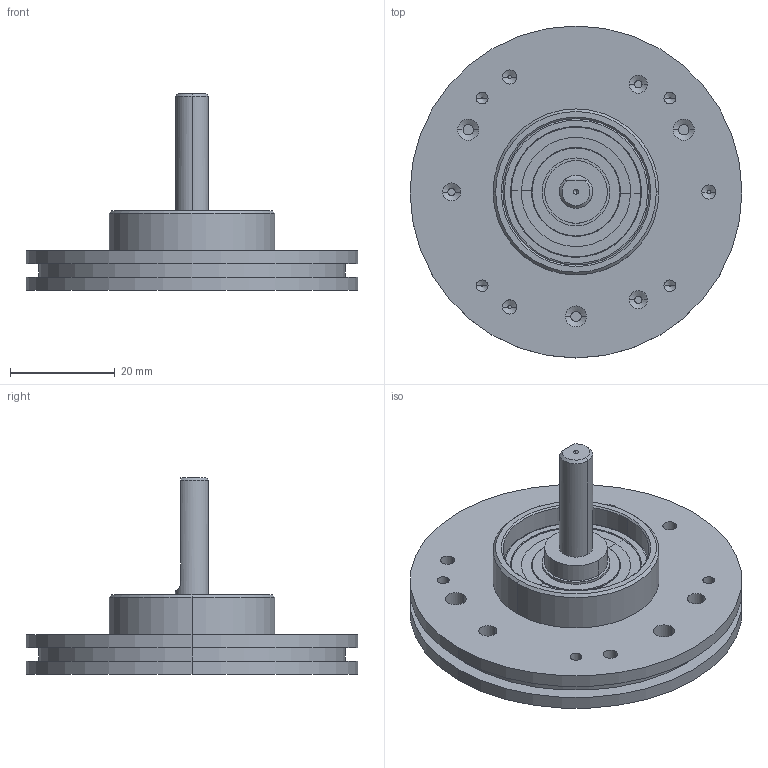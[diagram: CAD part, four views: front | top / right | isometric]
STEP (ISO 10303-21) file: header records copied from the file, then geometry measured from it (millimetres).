
FILE_DESCRIPTION (( 'STEP AP214' ), '1' );
FILE_NAME ('Drawing-MCD-B4P0-Q5A-N.STEP', '2016-02-02T08:53:43', ( '' ), ( '' ), 'SwSTEP 2.0', 'SolidWorks 2015', '' );
FILE_SCHEMA (( 'AUTOMOTIVE_DESIGN' ));
Length unit declared in the file: millimetre
Products named in the file (1): Drawing-MCD-B4P0-Q5A-N
Bounding box: 63.5 x 63.5 x 37.64 mm (x, y, z)
Volume: 25085 mm3; surface area: 16712.4 mm2
Topology: 13 solids, 14 shells, 199 faces, 425 edges, 257 vertices
Faces by surface type: cylinder 75, cone 48, plane 34, torus 26, sphere 16
Entity records: 7293 total; most frequent: DIRECTION 1029, CARTESIAN_POINT 852, ORIENTED_EDGE 762, AXIS2_PLACEMENT_3D 452, EDGE_CURVE 381, CIRCLE 252, VERTEX_POINT 233, EDGE_LOOP 230
